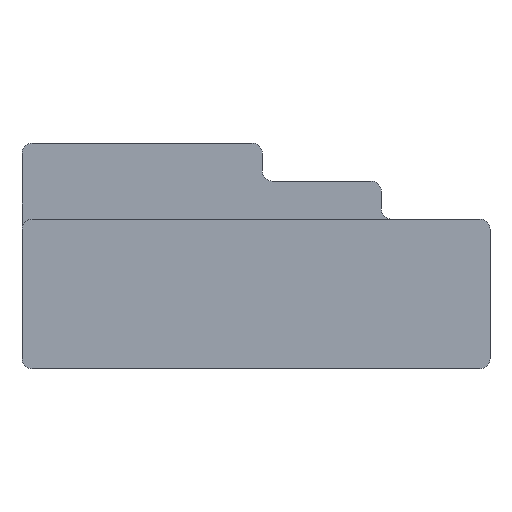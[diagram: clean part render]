
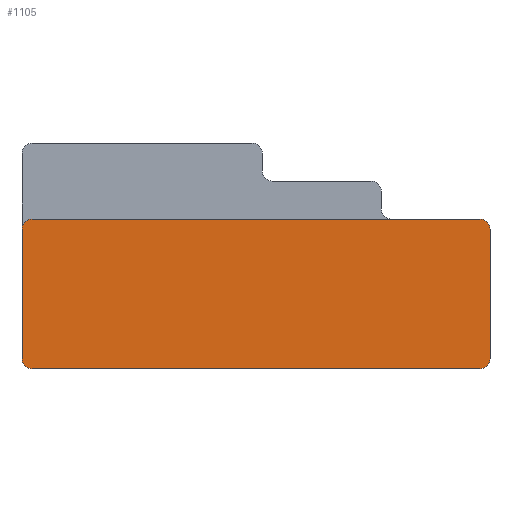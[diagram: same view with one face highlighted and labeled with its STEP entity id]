
A CAD part, front view. The second image highlights one B-rep face of the part: STEP entity #1105.
In plain terms, the highlighted planar face has unit normal (0, -1, 0).
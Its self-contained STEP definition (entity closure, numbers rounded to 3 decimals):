
#200=CARTESIAN_POINT('',(-10.9,-11.6,6.8));
#201=DIRECTION('',(0.,-1.,0.));
#202=DIRECTION('',(0.,0.,1.));
#203=AXIS2_PLACEMENT_3D('',#200,#201,#202);
#205=CARTESIAN_POINT('',(10.9,-11.6,6.8));
#206=DIRECTION('',(0.,-1.,0.));
#207=DIRECTION('',(1.,0.,0.));
#208=AXIS2_PLACEMENT_3D('',#205,#206,#207);
#210=CARTESIAN_POINT('',(10.9,-11.6,0.5));
#211=DIRECTION('',(0.,-1.,0.));
#212=DIRECTION('',(0.,0.,-1.));
#213=AXIS2_PLACEMENT_3D('',#210,#211,#212);
#215=CARTESIAN_POINT('',(-10.9,-11.6,0.5));
#216=DIRECTION('',(0.,-1.,0.));
#217=DIRECTION('',(-1.,0.,0.));
#218=AXIS2_PLACEMENT_3D('',#215,#216,#217);
#220=DIRECTION('',(0.,0.,1.));
#221=VECTOR('',#220,6.3);
#222=CARTESIAN_POINT('',(-11.4,-11.6,0.5));
#223=LINE('',#222,#221);
#308=DIRECTION('',(1.,0.,0.));
#309=VECTOR('',#308,21.8);
#310=CARTESIAN_POINT('',(-10.9,-11.6,7.3));
#311=LINE('',#310,#309);
#500=DIRECTION('',(1.,0.,0.));
#501=VECTOR('',#500,21.8);
#502=CARTESIAN_POINT('',(-10.9,-11.6,0.));
#503=LINE('',#502,#501);
#570=DIRECTION('',(0.,0.,1.));
#571=VECTOR('',#570,6.3);
#572=CARTESIAN_POINT('',(11.4,-11.6,0.5));
#573=LINE('',#572,#571);
#716=CARTESIAN_POINT('',(-10.9,-11.6,7.3));
#717=CARTESIAN_POINT('',(-11.4,-11.6,6.8));
#718=VERTEX_POINT('',#716);
#719=VERTEX_POINT('',#717);
#744=CARTESIAN_POINT('',(11.4,-11.6,6.8));
#745=VERTEX_POINT('',#744);
#746=CARTESIAN_POINT('',(10.9,-11.6,7.3));
#747=VERTEX_POINT('',#746);
#748=CARTESIAN_POINT('',(10.9,-11.6,0.));
#749=CARTESIAN_POINT('',(11.4,-11.6,0.5));
#750=VERTEX_POINT('',#748);
#751=VERTEX_POINT('',#749);
#760=CARTESIAN_POINT('',(-11.4,-11.6,0.5));
#761=VERTEX_POINT('',#760);
#762=CARTESIAN_POINT('',(-10.9,-11.6,0.));
#763=VERTEX_POINT('',#762);
#1083=CARTESIAN_POINT('',(-11.4,-11.6,0.));
#1084=DIRECTION('',(0.,-1.,0.));
#1085=DIRECTION('',(1.,0.,0.));
#1086=AXIS2_PLACEMENT_3D('',#1083,#1084,#1085);
#1087=PLANE('',#1086);
#1089=ORIENTED_EDGE('',*,*,#1088,.F.);
#1091=ORIENTED_EDGE('',*,*,#1090,.T.);
#1093=ORIENTED_EDGE('',*,*,#1092,.F.);
#1095=ORIENTED_EDGE('',*,*,#1094,.F.);
#1096=ORIENTED_EDGE('',*,*,#1073,.F.);
#1098=ORIENTED_EDGE('',*,*,#1097,.F.);
#1100=ORIENTED_EDGE('',*,*,#1099,.F.);
#1102=ORIENTED_EDGE('',*,*,#1101,.T.);
#1103=EDGE_LOOP('',(#1089,#1091,#1093,#1095,#1096,#1098,#1100,#1102));
#1104=FACE_OUTER_BOUND('',#1103,.F.);
#1105=ADVANCED_FACE('',(#1104),#1087,.T.);
#204=CIRCLE('',#203,0.5);
#209=CIRCLE('',#208,0.5);
#214=CIRCLE('',#213,0.5);
#219=CIRCLE('',#218,0.5);
#1073=EDGE_CURVE('',#750,#751,#214,.T.);
#1088=EDGE_CURVE('',#718,#719,#204,.T.);
#1090=EDGE_CURVE('',#718,#747,#311,.T.);
#1092=EDGE_CURVE('',#745,#747,#209,.T.);
#1094=EDGE_CURVE('',#751,#745,#573,.T.);
#1097=EDGE_CURVE('',#763,#750,#503,.T.);
#1099=EDGE_CURVE('',#761,#763,#219,.T.);
#1101=EDGE_CURVE('',#761,#719,#223,.T.);
